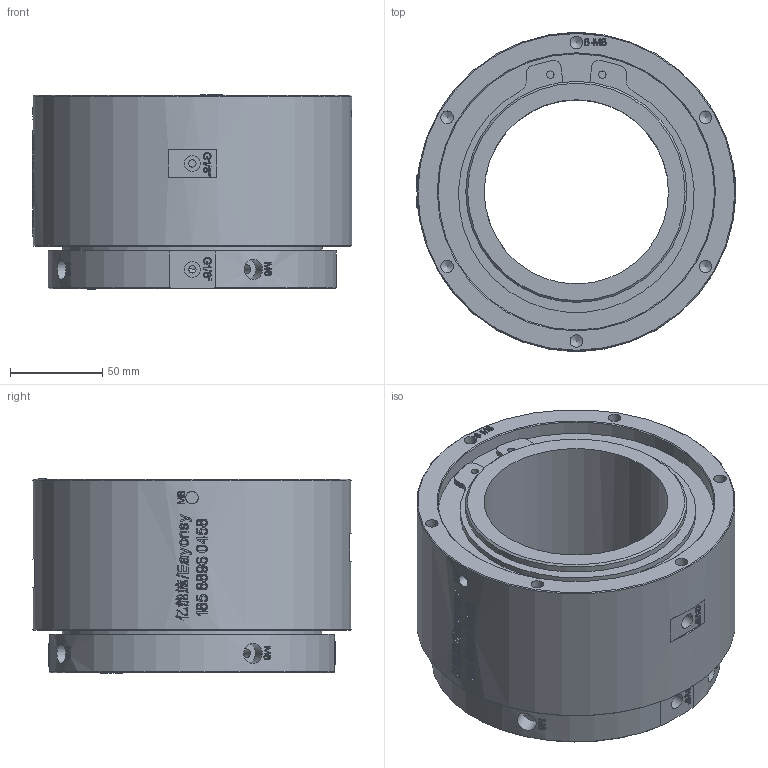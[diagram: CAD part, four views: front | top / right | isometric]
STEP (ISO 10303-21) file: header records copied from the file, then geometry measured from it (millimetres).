
FILE_DESCRIPTION(/* description */ (''),/* implementation_level */ '2;1');
FILE_NAME(/* name */ 'YQ0201-D100-3D模型.stp',/* time_stamp */ '2025-08-05T15:23:55+08:00',/* author */ (''),/* organization */ (''),/* preprocessor_version */ 'ST-DEVELOPER v16.7',/* originating_system */ 'SIEMENS PLM Software NX 12.0',/* authorisation */ '');
FILE_SCHEMA (('AUTOMOTIVE_DESIGN { 1 0 10303 214 3 1 1 1 }'));
Products named in the file (1): Admi16E026DChxkx
Bounding box: 173.62 x 173 x 105.4 mm (x, y, z)
Volume: 1477372.2 mm3; surface area: 143870.3 mm2
Topology: 1 solids, 1 shells, 1621 faces, 4452 edges, 2967 vertices
Faces by surface type: extrusion 973, plane 476, cylinder 80, bspline 73, cone 19
Full cylindrical faces by diameter (mm): 4 x8, 4.2 x2, 5 x4, 6.8 x12, 8.5 x4, 11 x4, 100 x1, 116 x1, 120 x1, 141 x1, 150 x1, 165 x1, 173 x1
Entity records: 64849 total; most frequent: CARTESIAN_POINT 30900, ORIENTED_EDGE 8732, B_SPLINE_CURVE_WITH_KNOTS 4519, EDGE_CURVE 4366, DIRECTION 3239, VERTEX_POINT 2950, EDGE_LOOP 1828, ADVANCED_FACE 1621
